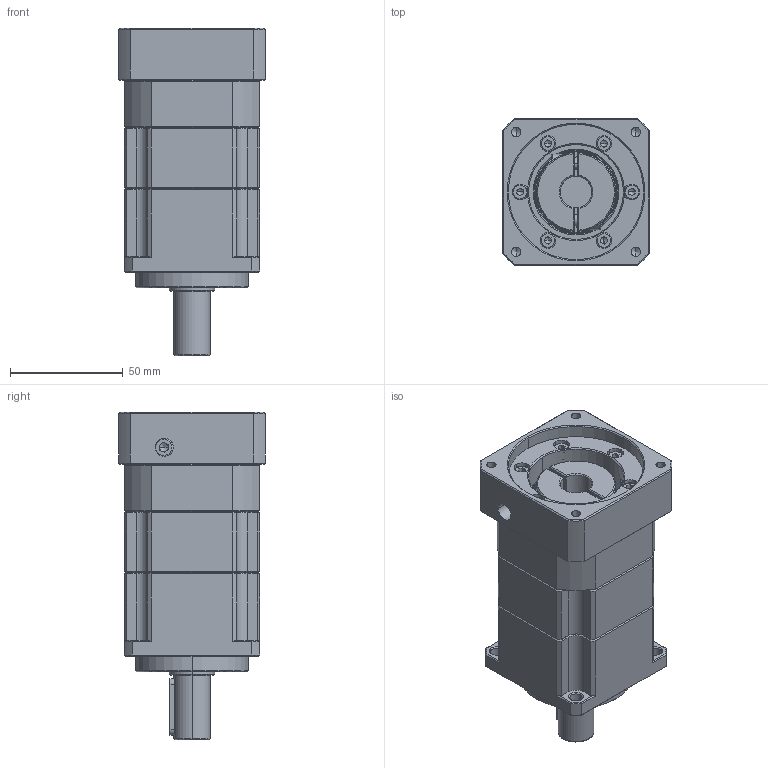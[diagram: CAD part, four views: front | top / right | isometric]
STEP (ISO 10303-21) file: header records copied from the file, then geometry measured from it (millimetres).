
FILE_DESCRIPTION (( 'STEP AP214' ), '1' );
FILE_NAME ('ZPB060-D16-L2-P1-14-60-75-M5.step', '2024-04-23T15:41:59', ( 'Windows 蚚誧' ), ( 'Organization' ), 'SwSTEP 2.0', 'SolidWorks 2016', '' );
FILE_SCHEMA (( 'AUTOMOTIVE_DESIGN' ));
Length unit declared in the file: millimetre
Products named in the file (1): ZPB060-D16-L2-P1-14-60-75-M5
Bounding box: 65 x 65 x 145 mm (x, y, z)
Volume: 336270.5 mm3; surface area: 83733.8 mm2
Topology: 17 solids, 25 shells, 2122 faces, 5895 edges, 3790 vertices
Faces by surface type: plane 1094, bspline 373, cylinder 317, cone 196, torus 96, sphere 46
Entity records: 110215 total; most frequent: CARTESIAN_POINT 36010, ORIENTED_EDGE 11452, DIRECTION 9010, EDGE_CURVE 5726, VERTEX_POINT 3721, VECTOR 3416, LINE 3416, AXIS2_PLACEMENT_3D 2797
